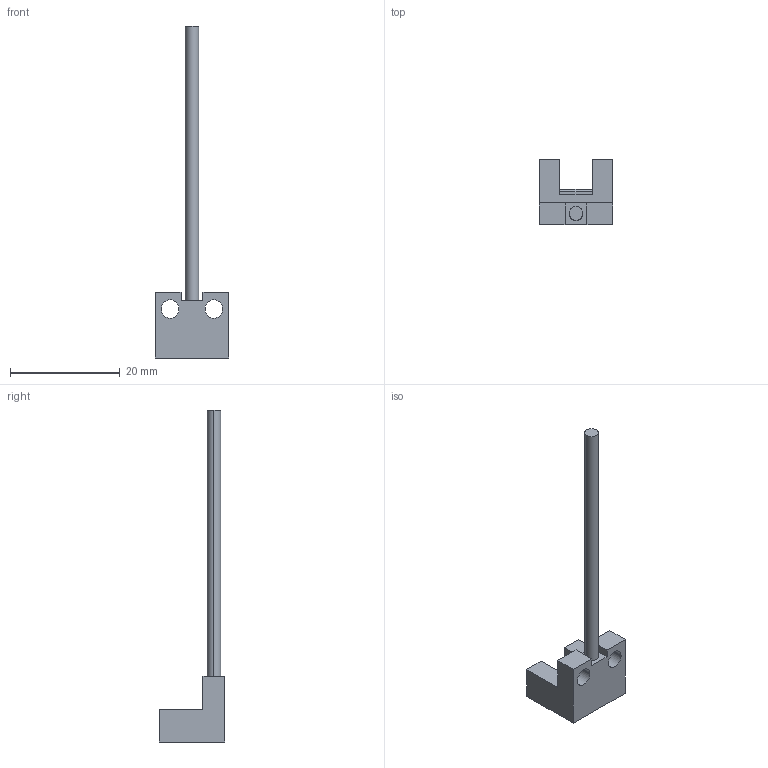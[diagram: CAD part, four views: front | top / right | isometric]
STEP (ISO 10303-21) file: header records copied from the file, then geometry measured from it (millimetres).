
FILE_DESCRIPTION (( 'STEP AP203' ), '1' );
FILE_NAME ('pm-l25.STEP', '2015-07-23T04:38:18', ( '' ), ( '' ), 'SwSTEP 2.0', 'SolidWorks 2010', '' );
FILE_SCHEMA (( 'CONFIG_CONTROL_DESIGN' ));
Length unit declared in the file: millimetre
Products named in the file (1): pm-l25
Bounding box: 13.4 x 12 x 60.5 mm (x, y, z)
Volume: 1234 mm3; surface area: 1276.4 mm2
Topology: 1 solids, 1 shells, 43 faces, 114 edges, 76 vertices
Faces by surface type: plane 37, cylinder 6
Entity records: 1405 total; most frequent: CARTESIAN_POINT 234, ORIENTED_EDGE 228, DIRECTION 214, EDGE_CURVE 114, VECTOR 102, LINE 102, VERTEX_POINT 76, AXIS2_PLACEMENT_3D 56
